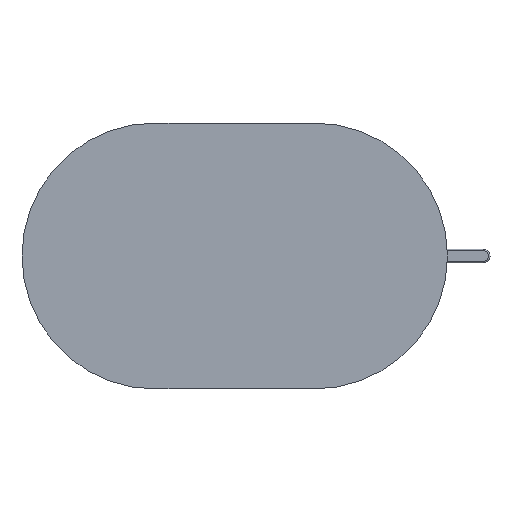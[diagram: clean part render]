
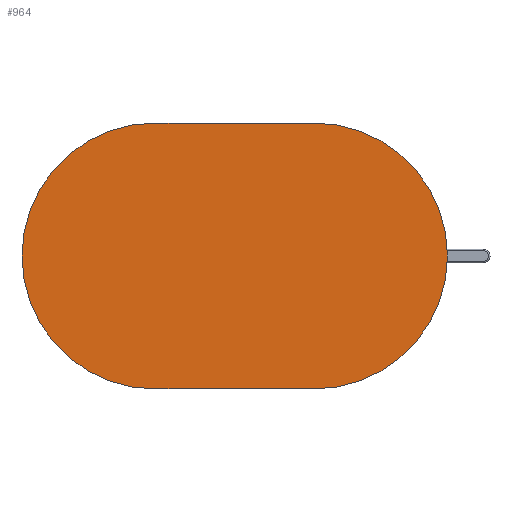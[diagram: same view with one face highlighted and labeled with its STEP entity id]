
A CAD part, left-side view. The second image highlights one B-rep face of the part: STEP entity #964.
In plain terms, the highlighted planar face has unit normal (-1, 0, 0) as drawn and (0, 0, -1) by its records, which use the part's own axes.
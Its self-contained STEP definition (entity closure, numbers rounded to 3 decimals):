
#98=FACE_OUTER_BOUND('',#165,.T.);
#165=EDGE_LOOP('',(#648,#649,#650,#651));
#234=LINE('',#1712,#288);
#235=LINE('',#1715,#289);
#288=VECTOR('',#1345,60.);
#289=VECTOR('',#1348,60.);
#342=CIRCLE('',#1177,50.);
#343=CIRCLE('',#1178,50.);
#412=VERTEX_POINT('',#1708);
#413=VERTEX_POINT('',#1709);
#414=VERTEX_POINT('',#1711);
#415=VERTEX_POINT('',#1713);
#504=EDGE_CURVE('',#412,#413,#342,.T.);
#505=EDGE_CURVE('',#414,#413,#234,.T.);
#506=EDGE_CURVE('',#414,#415,#343,.T.);
#507=EDGE_CURVE('',#412,#415,#235,.T.);
#648=ORIENTED_EDGE('',*,*,#504,.T.);
#649=ORIENTED_EDGE('',*,*,#505,.F.);
#650=ORIENTED_EDGE('',*,*,#506,.T.);
#651=ORIENTED_EDGE('',*,*,#507,.F.);
#935=PLANE('',#1176);
#964=ADVANCED_FACE('',(#98),#935,.F.);
#1176=AXIS2_PLACEMENT_3D('',#1707,#1341,#1342);
#1177=AXIS2_PLACEMENT_3D('',#1710,#1343,#1344);
#1178=AXIS2_PLACEMENT_3D('',#1714,#1346,#1347);
#1341=DIRECTION('center_axis',(0.,0.,1.));
#1342=DIRECTION('ref_axis',(1.,0.,0.));
#1343=DIRECTION('center_axis',(0.,0.,-1.));
#1344=DIRECTION('ref_axis',(1.,0.,0.));
#1345=DIRECTION('',(0.,-1.,0.));
#1346=DIRECTION('center_axis',(0.,0.,-1.));
#1347=DIRECTION('ref_axis',(-1.,0.,0.));
#1348=DIRECTION('',(0.,1.,0.));
#1707=CARTESIAN_POINT('Origin',(0.,0.,0.));
#1708=CARTESIAN_POINT('',(50.,-30.,0.));
#1709=CARTESIAN_POINT('',(-50.,-30.,0.));
#1710=CARTESIAN_POINT('Origin',(0.,-30.,0.));
#1711=CARTESIAN_POINT('',(-50.,30.,0.));
#1712=CARTESIAN_POINT('',(-50.,30.,0.));
#1713=CARTESIAN_POINT('',(50.,30.,0.));
#1714=CARTESIAN_POINT('Origin',(0.,30.,0.));
#1715=CARTESIAN_POINT('',(50.,-30.,0.));
